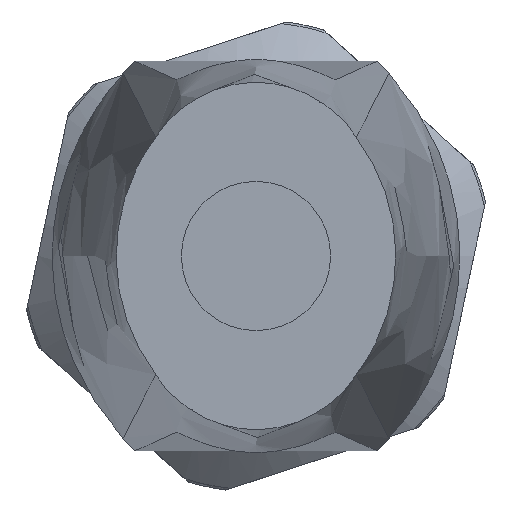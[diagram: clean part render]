
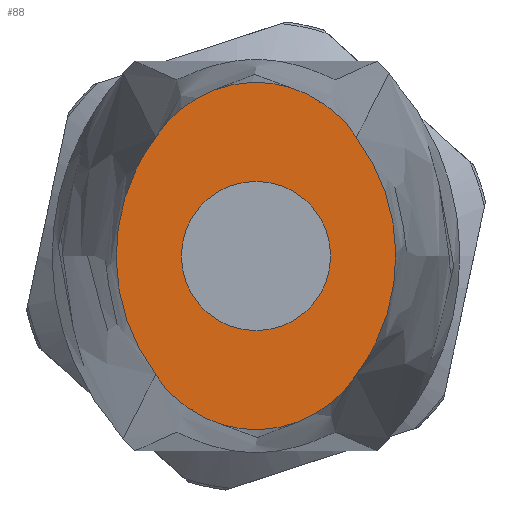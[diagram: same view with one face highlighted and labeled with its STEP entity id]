
A CAD part, left-side view. The second image highlights one B-rep face of the part: STEP entity #88.
In plain terms, the highlighted planar face has unit normal (-1, 0, 0).
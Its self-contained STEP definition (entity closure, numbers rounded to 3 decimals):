
#88 = ADVANCED_FACE( '', ( #162, #163 ), #164, .F. );
#162 = FACE_OUTER_BOUND( '', #367, .T. );
#163 = FACE_BOUND( '', #368, .T. );
#164 = PLANE( '', #369 );
#367 = EDGE_LOOP( '', ( #596, #597, #598, #599 ) );
#368 = EDGE_LOOP( '', ( #600 ) );
#369 = AXIS2_PLACEMENT_3D( '', #601, #602, #603 );
#596 = ORIENTED_EDGE( '', *, *, #974, .F. );
#597 = ORIENTED_EDGE( '', *, *, #965, .F. );
#598 = ORIENTED_EDGE( '', *, *, #973, .F. );
#599 = ORIENTED_EDGE( '', *, *, #957, .F. );
#600 = ORIENTED_EDGE( '', *, *, #975, .F. );
#601 = CARTESIAN_POINT( '', ( -49.15, -0.954, 0.9 ) );
#602 = DIRECTION( '', ( 1., 0., 0. ) );
#603 = DIRECTION( '', ( 0., 0., -1. ) );
#957 = EDGE_CURVE( '', #1109, #1111, #1112, .T. );
#965 = EDGE_CURVE( '', #1125, #1127, #1128, .T. );
#973 = EDGE_CURVE( '', #1111, #1125, #1137, .T. );
#974 = EDGE_CURVE( '', #1127, #1109, #1138, .T. );
#975 = EDGE_CURVE( '', #1139, #1139, #1140, .F. );
#1109 = VERTEX_POINT( '', #1439 );
#1111 = VERTEX_POINT( '', #1444 );
#1112 = B_SPLINE_CURVE_WITH_KNOTS( '', 3, ( #1445, #1446, #1447, #1448, #1449, #1450 ), .UNSPECIFIED., .F., .F., ( 4, 2, 4 ), ( 0., 0.5, 1. ), .UNSPECIFIED. );
#1125 = VERTEX_POINT( '', #1509 );
#1127 = VERTEX_POINT( '', #1514 );
#1128 = B_SPLINE_CURVE_WITH_KNOTS( '', 3, ( #1515, #1516, #1517, #1518, #1519, #1520 ), .UNSPECIFIED., .F., .F., ( 4, 2, 4 ), ( 0., 0.5, 1. ), .UNSPECIFIED. );
#1137 = B_SPLINE_CURVE_WITH_KNOTS( '', 3, ( #1551, #1552, #1553, #1554, #1555, #1556 ), .UNSPECIFIED., .F., .F., ( 4, 2, 4 ), ( 0., 0.5, 1. ), .UNSPECIFIED. );
#1138 = B_SPLINE_CURVE_WITH_KNOTS( '', 3, ( #1557, #1558, #1559, #1560, #1561, #1562 ), .UNSPECIFIED., .F., .F., ( 4, 2, 4 ), ( 0., 0.5, 1. ), .UNSPECIFIED. );
#1139 = VERTEX_POINT( '', #1563 );
#1140 = CIRCLE( '', #1564, 2.45 );
#1439 = CARTESIAN_POINT( '', ( -49.15, 3.288, 3.907 ) );
#1444 = CARTESIAN_POINT( '', ( -49.15, -3.288, 3.907 ) );
#1445 = CARTESIAN_POINT( '', ( -49.15, 3.288, 3.907 ) );
#1446 = CARTESIAN_POINT( '', ( -49.15, 2.58, 5.012 ) );
#1447 = CARTESIAN_POINT( '', ( -49.15, 1.303, 5.705 ) );
#1448 = CARTESIAN_POINT( '', ( -49.15, -1.303, 5.705 ) );
#1449 = CARTESIAN_POINT( '', ( -49.15, -2.58, 5.012 ) );
#1450 = CARTESIAN_POINT( '', ( -49.15, -3.288, 3.907 ) );
#1509 = CARTESIAN_POINT( '', ( -49.15, -3.288, -3.907 ) );
#1514 = CARTESIAN_POINT( '', ( -49.15, 3.288, -3.907 ) );
#1515 = CARTESIAN_POINT( '', ( -49.15, -3.288, -3.907 ) );
#1516 = CARTESIAN_POINT( '', ( -49.15, -2.58, -5.012 ) );
#1517 = CARTESIAN_POINT( '', ( -49.15, -1.303, -5.705 ) );
#1518 = CARTESIAN_POINT( '', ( -49.15, 1.303, -5.705 ) );
#1519 = CARTESIAN_POINT( '', ( -49.15, 2.58, -5.012 ) );
#1520 = CARTESIAN_POINT( '', ( -49.15, 3.288, -3.907 ) );
#1551 = CARTESIAN_POINT( '', ( -49.15, -3.288, 3.907 ) );
#1552 = CARTESIAN_POINT( '', ( -49.15, -4.129, 2.789 ) );
#1553 = CARTESIAN_POINT( '', ( -49.15, -4.593, 1.397 ) );
#1554 = CARTESIAN_POINT( '', ( -49.15, -4.593, -1.397 ) );
#1555 = CARTESIAN_POINT( '', ( -49.15, -4.129, -2.789 ) );
#1556 = CARTESIAN_POINT( '', ( -49.15, -3.288, -3.907 ) );
#1557 = CARTESIAN_POINT( '', ( -49.15, 3.288, -3.907 ) );
#1558 = CARTESIAN_POINT( '', ( -49.15, 4.129, -2.789 ) );
#1559 = CARTESIAN_POINT( '', ( -49.15, 4.593, -1.397 ) );
#1560 = CARTESIAN_POINT( '', ( -49.15, 4.593, 1.397 ) );
#1561 = CARTESIAN_POINT( '', ( -49.15, 4.129, 2.789 ) );
#1562 = CARTESIAN_POINT( '', ( -49.15, 3.288, 3.907 ) );
#1563 = CARTESIAN_POINT( '', ( -49.15, 0., -2.45 ) );
#1564 = AXIS2_PLACEMENT_3D( '', #2059, #2060, #2061 );
#2059 = CARTESIAN_POINT( '', ( -49.15, 0., 0. ) );
#2060 = DIRECTION( '', ( 1., 0., 0. ) );
#2061 = DIRECTION( '', ( 0., 0., -1. ) );
